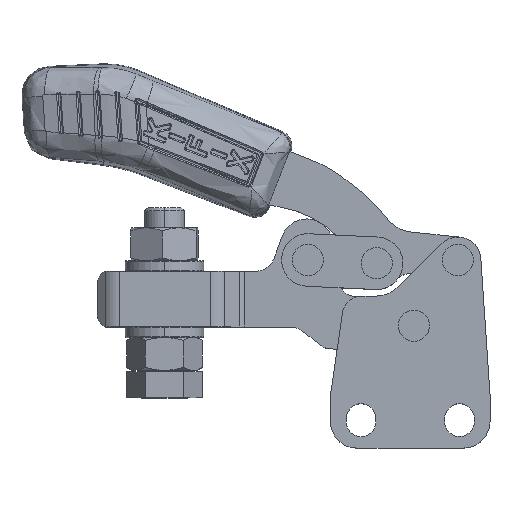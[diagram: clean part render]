
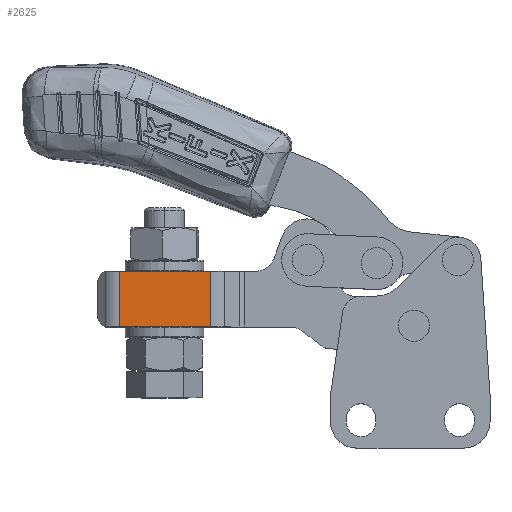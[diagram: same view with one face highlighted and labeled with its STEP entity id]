
A CAD part, top view. The second image highlights one B-rep face of the part: STEP entity #2625.
In plain terms, the highlighted planar face has unit normal (0, 0, 1).
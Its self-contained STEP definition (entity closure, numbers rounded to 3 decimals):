
#58 = CARTESIAN_POINT ( 'NONE',  ( -30.99, 8.3, 3.5 ) ) ;
#1930 = VECTOR ( 'NONE', #29930, 1000. ) ;
#2625 = ADVANCED_FACE ( 'NONE', ( #33385 ), #20353, .T. ) ;
#4186 = CARTESIAN_POINT ( 'NONE',  ( -44.81, 8.3, 3.5 ) ) ;
#7141 = CARTESIAN_POINT ( 'NONE',  ( -30.99, -0.2, 3.5 ) ) ;
#7707 = DIRECTION ( 'NONE',  ( 1., 0., 0. ) ) ;
#8943 = VERTEX_POINT ( 'NONE', #58 ) ;
#10122 = ORIENTED_EDGE ( 'NONE', *, *, #14388, .T. ) ;
#10610 = VERTEX_POINT ( 'NONE', #7141 ) ;
#13072 = VERTEX_POINT ( 'NONE', #22434 ) ;
#13593 = LINE ( 'NONE', #26186, #33739 ) ;
#14388 = EDGE_CURVE ( 'NONE', #8943, #17725, #16477, .T. ) ;
#15096 = DIRECTION ( 'NONE',  ( 0., 0., 1. ) ) ;
#16477 = LINE ( 'NONE', #23920, #22655 ) ;
#16740 = CARTESIAN_POINT ( 'NONE',  ( -30.99, 0., 3.5 ) ) ;
#17342 = EDGE_CURVE ( 'NONE', #13072, #10610, #32350, .T. ) ;
#17725 = VERTEX_POINT ( 'NONE', #4186 ) ;
#17726 = CARTESIAN_POINT ( 'NONE',  ( 0.963, 0., 3.5 ) ) ;
#18132 = CARTESIAN_POINT ( 'NONE',  ( -17.835, -0.2, 3.5 ) ) ;
#18367 = LINE ( 'NONE', #16740, #1930 ) ;
#20353 = PLANE ( 'NONE',  #20647 ) ;
#20647 = AXIS2_PLACEMENT_3D ( 'NONE', #17726, #15096, #23023 ) ;
#22193 = EDGE_CURVE ( 'NONE', #10610, #8943, #18367, .T. ) ;
#22434 = CARTESIAN_POINT ( 'NONE',  ( -44.81, -0.2, 3.5 ) ) ;
#22655 = VECTOR ( 'NONE', #31809, 1000. ) ;
#23023 = DIRECTION ( 'NONE',  ( 1., 0., 0. ) ) ;
#23794 = ORIENTED_EDGE ( 'NONE', *, *, #22193, .T. ) ;
#23920 = CARTESIAN_POINT ( 'NONE',  ( -23.142, 8.3, 3.5 ) ) ;
#26186 = CARTESIAN_POINT ( 'NONE',  ( -44.81, 0., 3.5 ) ) ;
#29186 = ORIENTED_EDGE ( 'NONE', *, *, #17342, .T. ) ;
#29930 = DIRECTION ( 'NONE',  ( 0., 1., 0. ) ) ;
#31521 = VECTOR ( 'NONE', #7707, 1000. ) ;
#31809 = DIRECTION ( 'NONE',  ( -1., 0., 0. ) ) ;
#32350 = LINE ( 'NONE', #18132, #31521 ) ;
#32765 = EDGE_LOOP ( 'NONE', ( #32945, #29186, #23794, #10122 ) ) ;
#32945 = ORIENTED_EDGE ( 'NONE', *, *, #33550, .F. ) ;
#33385 = FACE_OUTER_BOUND ( 'NONE', #32765, .T. ) ;
#33550 = EDGE_CURVE ( 'NONE', #13072, #17725, #13593, .T. ) ;
#33739 = VECTOR ( 'NONE', #33875, 1000. ) ;
#33875 = DIRECTION ( 'NONE',  ( 0., 1., 0. ) ) ;
